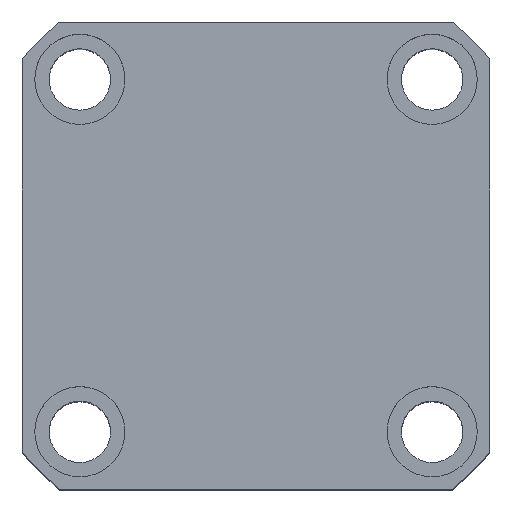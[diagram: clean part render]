
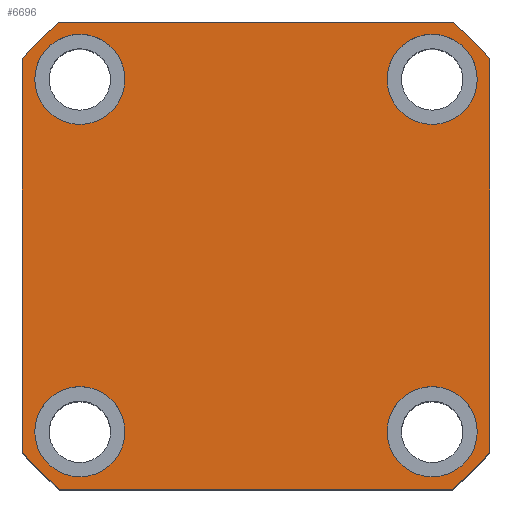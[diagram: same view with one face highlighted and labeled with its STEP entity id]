
A CAD part, top view. The second image highlights one B-rep face of the part: STEP entity #6696.
In plain terms, the highlighted planar face has unit normal (0, 0, 1) as drawn and (0, 0, -1) by its records, which use the part's own axes.
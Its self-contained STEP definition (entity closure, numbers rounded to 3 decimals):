
#3 = FACE_BOUND ( 'NONE', #15795, .T. ) ;
#64 = ORIENTED_EDGE ( 'NONE', *, *, #10974, .F. ) ;
#166 = CARTESIAN_POINT ( 'NONE',  ( 57., 47.971, 0. ) ) ;
#345 = VERTEX_POINT ( 'NONE', #15865 ) ;
#411 = VERTEX_POINT ( 'NONE', #9522 ) ;
#443 = DIRECTION ( 'NONE',  ( -1., 0., 0. ) ) ;
#635 = CARTESIAN_POINT ( 'NONE',  ( 47.971, 57., 0. ) ) ;
#781 = DIRECTION ( 'NONE',  ( 0., 0., 1. ) ) ;
#902 = AXIS2_PLACEMENT_3D ( 'NONE', #14829, #5308, #16393 ) ;
#1018 = CIRCLE ( 'NONE', #902, 11. ) ;
#1029 = VERTEX_POINT ( 'NONE', #635 ) ;
#1112 = CARTESIAN_POINT ( 'NONE',  ( -57., 57., 0. ) ) ;
#1178 = ORIENTED_EDGE ( 'NONE', *, *, #10176, .F. ) ;
#1268 = LINE ( 'NONE', #11676, #10212 ) ;
#1415 = DIRECTION ( 'NONE',  ( 1., 0., 0. ) ) ;
#1433 = AXIS2_PLACEMENT_3D ( 'NONE', #18180, #8754, #19770 ) ;
#1681 = ORIENTED_EDGE ( 'NONE', *, *, #8700, .F. ) ;
#1704 = CARTESIAN_POINT ( 'NONE',  ( 32., 43., 0. ) ) ;
#2370 = CARTESIAN_POINT ( 'NONE',  ( 43., 43., 0. ) ) ;
#2601 = AXIS2_PLACEMENT_3D ( 'NONE', #10292, #781, #11866 ) ;
#2741 = VECTOR ( 'NONE', #19773, 1000. ) ;
#2807 = VERTEX_POINT ( 'NONE', #4082 ) ;
#2926 = VERTEX_POINT ( 'NONE', #12324 ) ;
#3109 = ORIENTED_EDGE ( 'NONE', *, *, #18465, .F. ) ;
#3176 = CARTESIAN_POINT ( 'NONE',  ( -43., -43., 0. ) ) ;
#3247 = ORIENTED_EDGE ( 'NONE', *, *, #10844, .F. ) ;
#3341 = EDGE_LOOP ( 'NONE', ( #15876, #3247 ) ) ;
#3689 = CIRCLE ( 'NONE', #11779, 74.5 ) ;
#3707 = FACE_OUTER_BOUND ( 'NONE', #9542, .T. ) ;
#3711 = CIRCLE ( 'NONE', #10515, 11. ) ;
#3951 = DIRECTION ( 'NONE',  ( -1., 0., 0. ) ) ;
#4082 = CARTESIAN_POINT ( 'NONE',  ( -32., -43., 0. ) ) ;
#4268 = ORIENTED_EDGE ( 'NONE', *, *, #9789, .F. ) ;
#4758 = DIRECTION ( 'NONE',  ( -1., 0., 0. ) ) ;
#4802 = DIRECTION ( 'NONE',  ( 0., 0., -1. ) ) ;
#4822 = DIRECTION ( 'NONE',  ( 0., 0., 1. ) ) ;
#5032 = AXIS2_PLACEMENT_3D ( 'NONE', #19364, #9944, #443 ) ;
#5163 = VECTOR ( 'NONE', #12186, 1000. ) ;
#5194 = DIRECTION ( 'NONE',  ( 0., 0., -1. ) ) ;
#5308 = DIRECTION ( 'NONE',  ( 0., 0., -1. ) ) ;
#5318 = DIRECTION ( 'NONE',  ( 0., 0., -1. ) ) ;
#5512 = CIRCLE ( 'NONE', #17860, 74.5 ) ;
#5779 = CARTESIAN_POINT ( 'NONE',  ( -57., 57., 0. ) ) ;
#6291 = ORIENTED_EDGE ( 'NONE', *, *, #11753, .F. ) ;
#6637 = EDGE_CURVE ( 'NONE', #9735, #411, #1018, .T. ) ;
#6696 = ADVANCED_FACE ( 'NONE', ( #8424, #3, #12164, #7946, #3707 ), #7140, .F. ) ;
#6710 = CIRCLE ( 'NONE', #15563, 74.5 ) ;
#6804 = VERTEX_POINT ( 'NONE', #7203 ) ;
#7121 = EDGE_CURVE ( 'NONE', #2807, #13491, #13395, .T. ) ;
#7140 = PLANE ( 'NONE',  #8307 ) ;
#7203 = CARTESIAN_POINT ( 'NONE',  ( -57., -47.971, 0. ) ) ;
#7315 = VERTEX_POINT ( 'NONE', #1704 ) ;
#7760 = EDGE_CURVE ( 'NONE', #12320, #14241, #17303, .T. ) ;
#7946 = FACE_BOUND ( 'NONE', #3341, .T. ) ;
#8014 = EDGE_CURVE ( 'NONE', #12434, #2926, #3689, .T. ) ;
#8022 = CARTESIAN_POINT ( 'NONE',  ( 54., 43., 0. ) ) ;
#8146 = CIRCLE ( 'NONE', #1433, 11. ) ;
#8188 = VECTOR ( 'NONE', #16836, 1000. ) ;
#8307 = AXIS2_PLACEMENT_3D ( 'NONE', #18174, #19765, #10360 ) ;
#8424 = FACE_BOUND ( 'NONE', #18733, .T. ) ;
#8561 = CARTESIAN_POINT ( 'NONE',  ( 0., 0., 0. ) ) ;
#8700 = EDGE_CURVE ( 'NONE', #8949, #7315, #8146, .T. ) ;
#8754 = DIRECTION ( 'NONE',  ( 0., 0., -1. ) ) ;
#8780 = VERTEX_POINT ( 'NONE', #10435 ) ;
#8949 = VERTEX_POINT ( 'NONE', #8022 ) ;
#9375 = ORIENTED_EDGE ( 'NONE', *, *, #12779, .F. ) ;
#9522 = CARTESIAN_POINT ( 'NONE',  ( 32., -43., 0. ) ) ;
#9542 = EDGE_LOOP ( 'NONE', ( #15091, #64, #3109, #4268, #20084, #1178, #18420, #6291 ) ) ;
#9623 = ORIENTED_EDGE ( 'NONE', *, *, #6637, .F. ) ;
#9735 = VERTEX_POINT ( 'NONE', #11463 ) ;
#9789 = EDGE_CURVE ( 'NONE', #345, #11762, #1268, .T. ) ;
#9860 = CARTESIAN_POINT ( 'NONE',  ( -54., -43., 0. ) ) ;
#9944 = DIRECTION ( 'NONE',  ( 0., 0., -1. ) ) ;
#10109 = DIRECTION ( 'NONE',  ( 1., 0., 0. ) ) ;
#10164 = DIRECTION ( 'NONE',  ( 1., 0., 0. ) ) ;
#10176 = EDGE_CURVE ( 'NONE', #2926, #6804, #15147, .T. ) ;
#10212 = VECTOR ( 'NONE', #10109, 1000. ) ;
#10292 = CARTESIAN_POINT ( 'NONE',  ( 0., 0., 0. ) ) ;
#10360 = DIRECTION ( 'NONE',  ( 1., 0., 0. ) ) ;
#10435 = CARTESIAN_POINT ( 'NONE',  ( 57., -47.971, 0. ) ) ;
#10515 = AXIS2_PLACEMENT_3D ( 'NONE', #14839, #5318, #16403 ) ;
#10621 = CARTESIAN_POINT ( 'NONE',  ( 47.971, -57., 0. ) ) ;
#10844 = EDGE_CURVE ( 'NONE', #14241, #12320, #3711, .T. ) ;
#10929 = DIRECTION ( 'NONE',  ( 0., 0., 1. ) ) ;
#10974 = EDGE_CURVE ( 'NONE', #8780, #14536, #15378, .T. ) ;
#11050 = ORIENTED_EDGE ( 'NONE', *, *, #7121, .F. ) ;
#11128 = AXIS2_PLACEMENT_3D ( 'NONE', #14323, #4802, #15885 ) ;
#11463 = CARTESIAN_POINT ( 'NONE',  ( 54., -43., 0. ) ) ;
#11676 = CARTESIAN_POINT ( 'NONE',  ( -57., -57., 0. ) ) ;
#11739 = CIRCLE ( 'NONE', #2601, 74.5 ) ;
#11753 = EDGE_CURVE ( 'NONE', #1029, #12434, #13646, .T. ) ;
#11762 = VERTEX_POINT ( 'NONE', #10621 ) ;
#11779 = AXIS2_PLACEMENT_3D ( 'NONE', #8561, #19571, #10164 ) ;
#11866 = DIRECTION ( 'NONE',  ( 1., 0., 0. ) ) ;
#12018 = CIRCLE ( 'NONE', #18404, 11. ) ;
#12164 = FACE_BOUND ( 'NONE', #20127, .T. ) ;
#12186 = DIRECTION ( 'NONE',  ( -1., 0., 0. ) ) ;
#12320 = VERTEX_POINT ( 'NONE', #14863 ) ;
#12324 = CARTESIAN_POINT ( 'NONE',  ( -57., 47.971, 0. ) ) ;
#12434 = VERTEX_POINT ( 'NONE', #13558 ) ;
#12587 = AXIS2_PLACEMENT_3D ( 'NONE', #2370, #13451, #3951 ) ;
#12779 = EDGE_CURVE ( 'NONE', #7315, #8949, #16570, .T. ) ;
#13395 = CIRCLE ( 'NONE', #17807, 11. ) ;
#13451 = DIRECTION ( 'NONE',  ( 0., 0., -1. ) ) ;
#13491 = VERTEX_POINT ( 'NONE', #9860 ) ;
#13558 = CARTESIAN_POINT ( 'NONE',  ( -47.971, 57., 0. ) ) ;
#13646 = LINE ( 'NONE', #1112, #5163 ) ;
#13819 = ORIENTED_EDGE ( 'NONE', *, *, #17242, .F. ) ;
#14241 = VERTEX_POINT ( 'NONE', #20216 ) ;
#14277 = DIRECTION ( 'NONE',  ( 0., 0., -1. ) ) ;
#14323 = CARTESIAN_POINT ( 'NONE',  ( -43., 43., 0. ) ) ;
#14339 = CARTESIAN_POINT ( 'NONE',  ( 0., 0., 0. ) ) ;
#14536 = VERTEX_POINT ( 'NONE', #166 ) ;
#14638 = EDGE_CURVE ( 'NONE', #411, #9735, #12018, .T. ) ;
#14713 = CARTESIAN_POINT ( 'NONE',  ( 43., -43., 0. ) ) ;
#14829 = CARTESIAN_POINT ( 'NONE',  ( 43., -43., 0. ) ) ;
#14839 = CARTESIAN_POINT ( 'NONE',  ( -43., 43., 0. ) ) ;
#14863 = CARTESIAN_POINT ( 'NONE',  ( -54., 43., 0. ) ) ;
#15091 = ORIENTED_EDGE ( 'NONE', *, *, #20292, .F. ) ;
#15147 = LINE ( 'NONE', #5779, #8188 ) ;
#15228 = ORIENTED_EDGE ( 'NONE', *, *, #14638, .F. ) ;
#15378 = LINE ( 'NONE', #18183, #2741 ) ;
#15563 = AXIS2_PLACEMENT_3D ( 'NONE', #14339, #4822, #15904 ) ;
#15795 = EDGE_LOOP ( 'NONE', ( #15228, #9623 ) ) ;
#15865 = CARTESIAN_POINT ( 'NONE',  ( -47.971, -57., 0. ) ) ;
#15876 = ORIENTED_EDGE ( 'NONE', *, *, #7760, .F. ) ;
#15885 = DIRECTION ( 'NONE',  ( -1., 0., 0. ) ) ;
#15904 = DIRECTION ( 'NONE',  ( 1., 0., 0. ) ) ;
#16277 = DIRECTION ( 'NONE',  ( -1., 0., 0. ) ) ;
#16393 = DIRECTION ( 'NONE',  ( -1., 0., 0. ) ) ;
#16403 = DIRECTION ( 'NONE',  ( -1., 0., 0. ) ) ;
#16570 = CIRCLE ( 'NONE', #12587, 11. ) ;
#16635 = EDGE_CURVE ( 'NONE', #6804, #345, #5512, .T. ) ;
#16836 = DIRECTION ( 'NONE',  ( 0., -1., 0. ) ) ;
#17242 = EDGE_CURVE ( 'NONE', #13491, #2807, #18364, .T. ) ;
#17303 = CIRCLE ( 'NONE', #11128, 11. ) ;
#17807 = AXIS2_PLACEMENT_3D ( 'NONE', #3176, #14277, #4758 ) ;
#17860 = AXIS2_PLACEMENT_3D ( 'NONE', #20331, #10929, #1415 ) ;
#18174 = CARTESIAN_POINT ( 'NONE',  ( 0., 0., 0. ) ) ;
#18180 = CARTESIAN_POINT ( 'NONE',  ( 43., 43., 0. ) ) ;
#18183 = CARTESIAN_POINT ( 'NONE',  ( 57., 57., 0. ) ) ;
#18364 = CIRCLE ( 'NONE', #5032, 11. ) ;
#18404 = AXIS2_PLACEMENT_3D ( 'NONE', #14713, #5194, #16277 ) ;
#18420 = ORIENTED_EDGE ( 'NONE', *, *, #8014, .F. ) ;
#18465 = EDGE_CURVE ( 'NONE', #11762, #8780, #6710, .T. ) ;
#18733 = EDGE_LOOP ( 'NONE', ( #13819, #11050 ) ) ;
#19364 = CARTESIAN_POINT ( 'NONE',  ( -43., -43., 0. ) ) ;
#19571 = DIRECTION ( 'NONE',  ( 0., 0., 1. ) ) ;
#19765 = DIRECTION ( 'NONE',  ( 0., 0., 1. ) ) ;
#19770 = DIRECTION ( 'NONE',  ( -1., 0., 0. ) ) ;
#19773 = DIRECTION ( 'NONE',  ( 0., 1., 0. ) ) ;
#20084 = ORIENTED_EDGE ( 'NONE', *, *, #16635, .F. ) ;
#20127 = EDGE_LOOP ( 'NONE', ( #9375, #1681 ) ) ;
#20216 = CARTESIAN_POINT ( 'NONE',  ( -32., 43., 0. ) ) ;
#20292 = EDGE_CURVE ( 'NONE', #14536, #1029, #11739, .T. ) ;
#20331 = CARTESIAN_POINT ( 'NONE',  ( 0., 0., 0. ) ) ;
